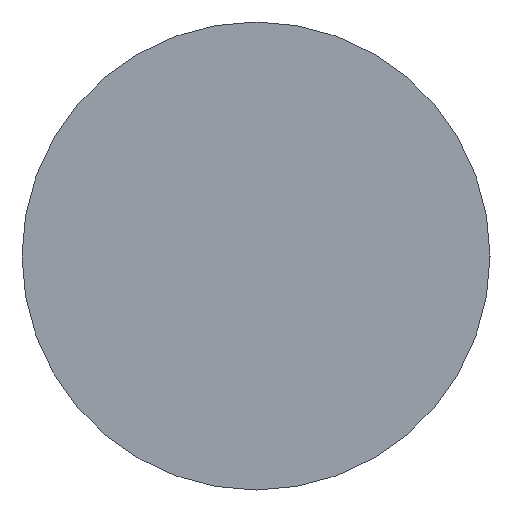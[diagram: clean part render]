
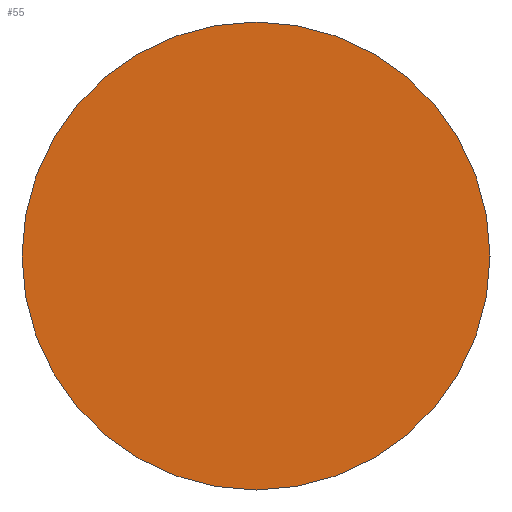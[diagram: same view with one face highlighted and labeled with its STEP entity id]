
A CAD part, left-side view. The second image highlights one B-rep face of the part: STEP entity #55.
In plain terms, the highlighted planar face has unit normal (-1, 0, 0).
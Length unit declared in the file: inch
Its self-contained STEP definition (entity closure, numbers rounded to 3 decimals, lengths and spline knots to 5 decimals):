
#55 = ADVANCED_FACE ( 'NONE', ( #62 ), #459, .F. ) ;
#62 = FACE_OUTER_BOUND ( 'NONE', #165, .T. ) ;
#71 = AXIS2_PLACEMENT_3D ( 'NONE', #220, #300, #374 ) ;
#85 = EDGE_CURVE ( 'NONE', #124, #202, #292, .T. ) ;
#91 = CARTESIAN_POINT ( 'NONE',  ( -6., 0.25, 0. ) ) ;
#107 = CARTESIAN_POINT ( 'NONE',  ( -6., 0., 0.25 ) ) ;
#124 = VERTEX_POINT ( 'NONE', #107 ) ;
#139 = DIRECTION ( 'NONE',  ( 0., 0., 1. ) ) ;
#165 = EDGE_LOOP ( 'NONE', ( #466, #198 ) ) ;
#198 = ORIENTED_EDGE ( 'NONE', *, *, #331, .T. ) ;
#202 = VERTEX_POINT ( 'NONE', #299 ) ;
#214 = DIRECTION ( 'NONE',  ( 0., 0., -1. ) ) ;
#215 = CARTESIAN_POINT ( 'NONE',  ( -6., 0., 0. ) ) ;
#220 = CARTESIAN_POINT ( 'NONE',  ( -6., 0., 0. ) ) ;
#226 = AXIS2_PLACEMENT_3D ( 'NONE', #91, #382, #214 ) ;
#292 = CIRCLE ( 'NONE', #71, 0.25 ) ;
#299 = CARTESIAN_POINT ( 'NONE',  ( -6., 0., -0.25 ) ) ;
#300 = DIRECTION ( 'NONE',  ( -1., 0., 0. ) ) ;
#322 = AXIS2_PLACEMENT_3D ( 'NONE', #215, #454, #139 ) ;
#331 = EDGE_CURVE ( 'NONE', #202, #124, #362, .T. ) ;
#362 = CIRCLE ( 'NONE', #322, 0.25 ) ;
#374 = DIRECTION ( 'NONE',  ( 0., 0., 1. ) ) ;
#382 = DIRECTION ( 'NONE',  ( 1., 0., 0. ) ) ;
#454 = DIRECTION ( 'NONE',  ( -1., 0., 0. ) ) ;
#459 = PLANE ( 'NONE',  #226 ) ;
#466 = ORIENTED_EDGE ( 'NONE', *, *, #85, .T. ) ;
